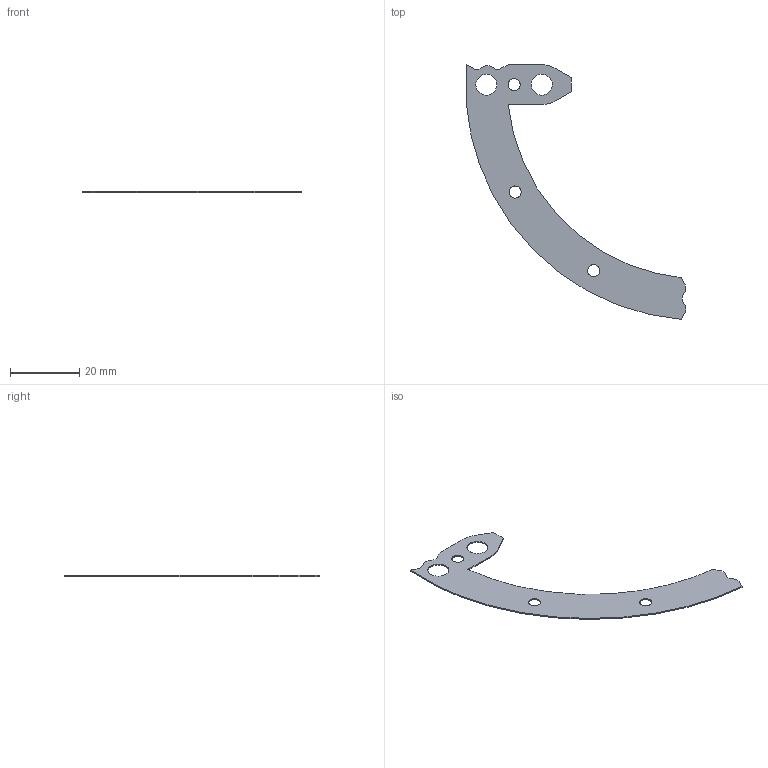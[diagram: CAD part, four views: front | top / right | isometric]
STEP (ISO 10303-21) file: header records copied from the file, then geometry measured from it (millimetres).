
FILE_DESCRIPTION ((), '1');
FILE_NAME ('F:\Energy Science\CAD Projects\Generator Research\Tesla_v1\Core\Stator\stator-laminate-quadrant.stp', '2015-10-19T00:41:48', ('Unknown'), ('Unknown'), 'HarmonyWare STEP v1.7.11', 'HarmonyWare Translators', '');
FILE_SCHEMA (('CONFIG_CONTROL_DESIGN'));
Length unit declared in the file: millimetre
Products named in the file (1): product-name
Bounding box: 63.25 x 73.54 x 0.35 mm (x, y, z)
Volume: 444.4 mm3; surface area: 2652.6 mm2
Topology: 1 solids, 1 shells, 37 faces, 122 edges, 87 vertices
Faces by surface type: bspline 37
Entity records: 1460 total; most frequent: CARTESIAN_POINT 661, ORIENTED_EDGE 244, EDGE_CURVE 122, B_SPLINE_CURVE_WITH_KNOTS 94, VERTEX_POINT 87, EDGE_LOOP 47, FACE_OUTER_BOUND 37, ADVANCED_FACE 37
